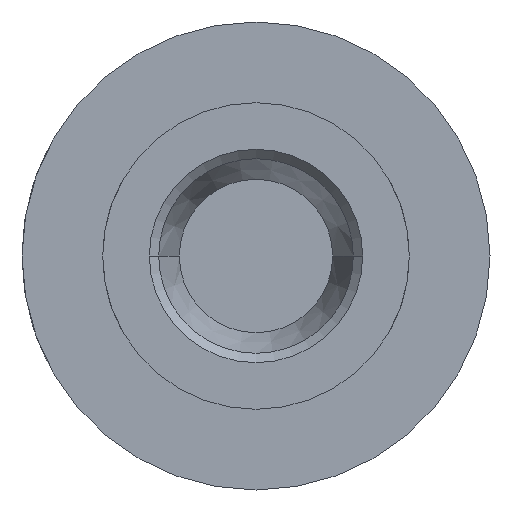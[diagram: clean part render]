
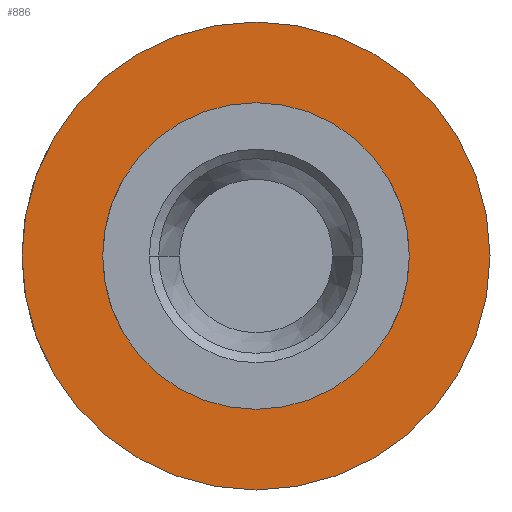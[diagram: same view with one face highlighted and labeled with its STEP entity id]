
A CAD part, left-side view. The second image highlights one B-rep face of the part: STEP entity #886.
In plain terms, the highlighted planar face has unit normal (-1, 0, 0).
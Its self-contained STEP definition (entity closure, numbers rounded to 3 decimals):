
#64 = DIRECTION ( 'NONE',  ( 1., 0., 0. ) ) ;
#92 = CARTESIAN_POINT ( 'NONE',  ( 38., 0., 0. ) ) ;
#98 = DIRECTION ( 'NONE',  ( 1., 0., 0. ) ) ;
#145 = AXIS2_PLACEMENT_3D ( 'NONE', #2017, #98, #739 ) ;
#184 = CIRCLE ( 'NONE', #429, 29. ) ;
#228 = PLANE ( 'NONE',  #2011 ) ;
#230 = DIRECTION ( 'NONE',  ( 0., 1., 0. ) ) ;
#404 = DIRECTION ( 'NONE',  ( 1., 0., 0. ) ) ;
#429 = AXIS2_PLACEMENT_3D ( 'NONE', #1380, #64, #230 ) ;
#432 = DIRECTION ( 'NONE',  ( 0., 1., 0. ) ) ;
#470 = VERTEX_POINT ( 'NONE', #1360 ) ;
#620 = EDGE_CURVE ( 'NONE', #2060, #1052, #1906, .T. ) ;
#655 = EDGE_CURVE ( 'NONE', #470, #1008, #786, .T. ) ;
#739 = DIRECTION ( 'NONE',  ( 0., 1., 0. ) ) ;
#786 = CIRCLE ( 'NONE', #1355, 29. ) ;
#886 = ADVANCED_FACE ( 'NONE', ( #1365, #1939 ), #228, .T. ) ;
#989 = ORIENTED_EDGE ( 'NONE', *, *, #1228, .F. ) ;
#1008 = VERTEX_POINT ( 'NONE', #1745 ) ;
#1052 = VERTEX_POINT ( 'NONE', #1588 ) ;
#1228 = EDGE_CURVE ( 'NONE', #1008, #470, #184, .T. ) ;
#1355 = AXIS2_PLACEMENT_3D ( 'NONE', #92, #404, #432 ) ;
#1360 = CARTESIAN_POINT ( 'NONE',  ( 38., -29., 0. ) ) ;
#1364 = CARTESIAN_POINT ( 'NONE',  ( 38., 24., 0. ) ) ;
#1365 = FACE_OUTER_BOUND ( 'NONE', #2078, .T. ) ;
#1380 = CARTESIAN_POINT ( 'NONE',  ( 38., 0., 0. ) ) ;
#1413 = EDGE_CURVE ( 'NONE', #1052, #2060, #1556, .T. ) ;
#1435 = EDGE_LOOP ( 'NONE', ( #1912, #1853 ) ) ;
#1449 = DIRECTION ( 'NONE',  ( 0., 1., 0. ) ) ;
#1458 = DIRECTION ( 'NONE',  ( 1., 0., 0. ) ) ;
#1524 = DIRECTION ( 'NONE',  ( 0., 0., 1. ) ) ;
#1538 = ORIENTED_EDGE ( 'NONE', *, *, #655, .F. ) ;
#1556 = CIRCLE ( 'NONE', #1707, 19. ) ;
#1588 = CARTESIAN_POINT ( 'NONE',  ( 38., -19., 0. ) ) ;
#1679 = CARTESIAN_POINT ( 'NONE',  ( 38., 19., 0. ) ) ;
#1707 = AXIS2_PLACEMENT_3D ( 'NONE', #1757, #1458, #1449 ) ;
#1745 = CARTESIAN_POINT ( 'NONE',  ( 38., 29., 0. ) ) ;
#1757 = CARTESIAN_POINT ( 'NONE',  ( 38., 0., 0. ) ) ;
#1853 = ORIENTED_EDGE ( 'NONE', *, *, #1413, .T. ) ;
#1906 = CIRCLE ( 'NONE', #145, 19. ) ;
#1912 = ORIENTED_EDGE ( 'NONE', *, *, #620, .T. ) ;
#1939 = FACE_BOUND ( 'NONE', #1435, .T. ) ;
#1998 = DIRECTION ( 'NONE',  ( -1., 0., 0. ) ) ;
#2011 = AXIS2_PLACEMENT_3D ( 'NONE', #1364, #1998, #1524 ) ;
#2017 = CARTESIAN_POINT ( 'NONE',  ( 38., 0., 0. ) ) ;
#2060 = VERTEX_POINT ( 'NONE', #1679 ) ;
#2078 = EDGE_LOOP ( 'NONE', ( #989, #1538 ) ) ;
